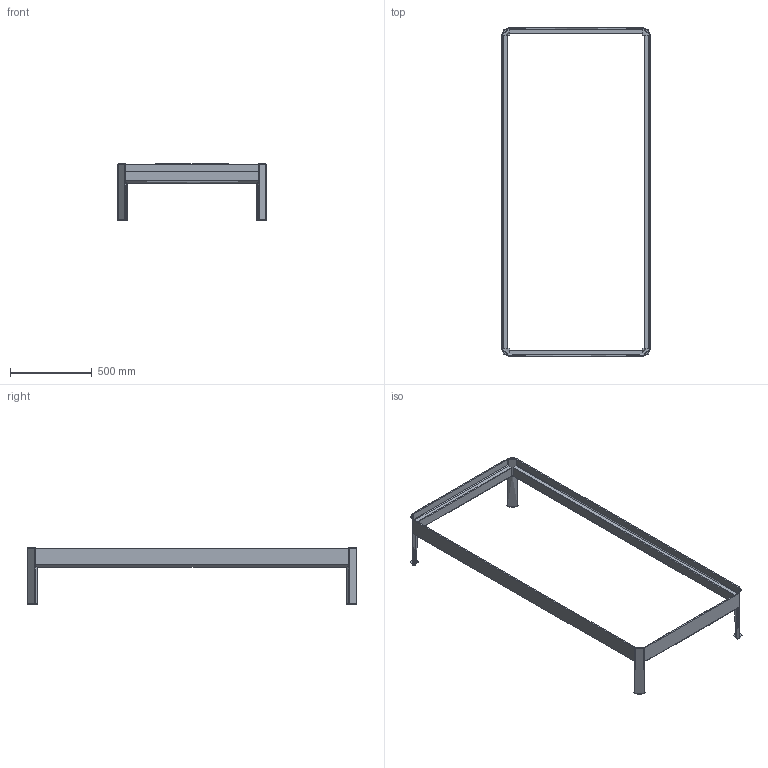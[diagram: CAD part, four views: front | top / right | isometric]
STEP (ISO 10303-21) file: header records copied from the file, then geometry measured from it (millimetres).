
FILE_DESCRIPTION(/* description */ (''),/* implementation_level */ '2;1');
FILE_NAME(/* name */ 'Heia_90x200',/* time_stamp */ '2025-10-15T11:13:14+02:00',/* author */ (''),/* organization */ (''),/* preprocessor_version */ 'ST-DEVELOPER v16.5',/* originating_system */ 'Rhino 7.38',/* authorisation */ '');
FILE_SCHEMA (('CONFIG_CONTROL_DESIGN'));
Length unit declared in the file: millimetre
Products named in the file (1): Document
Bounding box: 911 x 2011 x 345.4 mm (x, y, z)
Volume: 18053212.9 mm3; surface area: 2070799.3 mm2
Topology: 12 solids, 12 shells, 312 faces, 760 edges, 472 vertices
Faces by surface type: plane 136, cylinder 124, bspline 52
Entity records: 8472 total; most frequent: CARTESIAN_POINT 3562, ORIENTED_EDGE 1520, EDGE_CURVE 760, VERTEX_POINT 472, EDGE_LOOP 320, ADVANCED_FACE 312, FACE_OUTER_BOUND 312, B_SPLINE_CURVE_WITH_KNOTS 312
